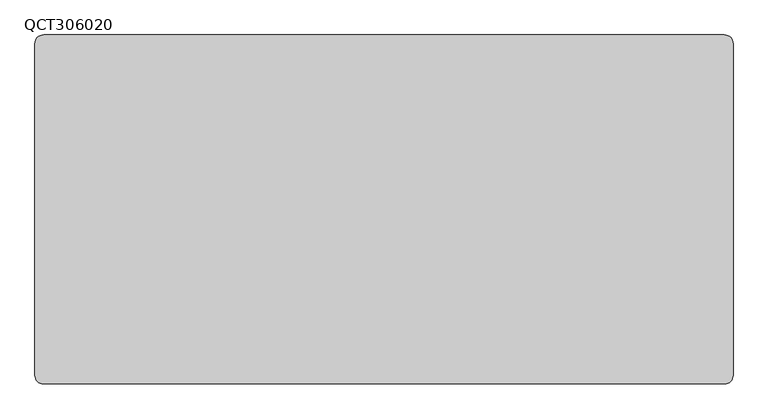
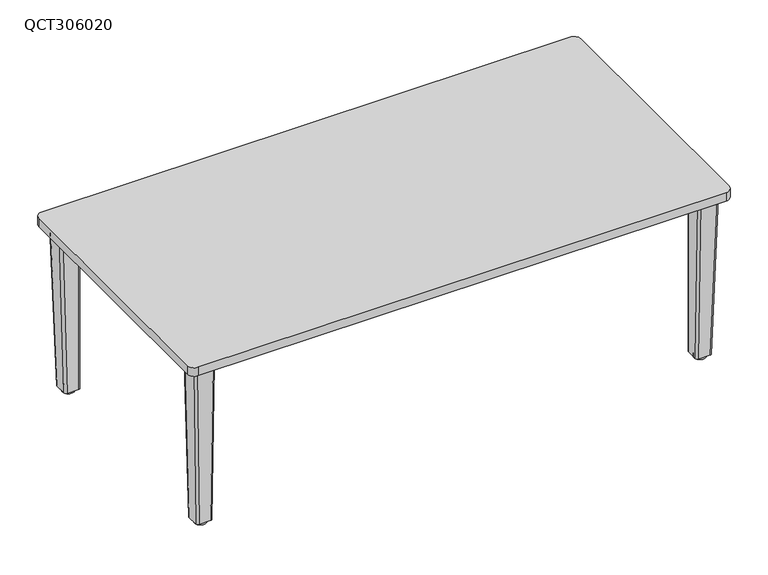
"""IFC4 building model written with IfcOpenShell, lengths in millimetres: furniture geometry, Leland-Quince-Table_Rectangle : QCT306020."""

from ifc_helpers import new_model, si_unit, point, frame, frame_2d, origin, origin_with_axes, place, context, project, spatial, polyline, circle_curve, trimmed, segment, composite_curve, outline, extrude, source, transform, mapped, element, save
from ifc_brep_helpers import plane_surface, cylinder_surface, extruded_surface, advanced_brep


def qct306020_a0ced367(model_context):
    return source(origin(), model_context, "Body", "SolidModel", [
        advanced_brep(
        [(731.0299122, -299.2482078, 477.8487443), (686.5799122, -299.2482078, 477.8487443), (680.2299122, -305.5982078, 477.8487443), (680.2299122, -350.0482078, 477.8487443), (686.5799122, -356.3982078, 477.8487443), (731.0299122, -356.3982078, 477.8487443), (737.3799122, -350.0482078, 477.8487443), (737.3799122, -305.5982078, 477.8487443), (718.7392552, -299.2482078, 9.5377), (725.0892552, -305.5982078, 9.5377), (725.0892552, -337.7651364, 9.5377), (718.7392552, -344.1151364, 9.5377), (686.5799122, -344.1151364, 9.5377), (680.2299122, -337.7651364, 9.5377), (680.2299122, -305.5982078, 9.5377), (686.5799122, -299.2482078, 9.5377)],
        [
            (0, 1),
            (1, 2, circle_curve(frame((686.5799122, -305.5982078, 477.8487443), z_axis=(0.0, 0.0, 1.0), x_axis=(-1.0, 0.0, 0.0)), 6.35)),
            (2, 3),
            (3, 4, circle_curve(frame((686.5799122, -350.0482078, 477.8487443), z_axis=(0.0, 0.0, 1.0), x_axis=(-1.0, 0.0, 0.0)), 6.35)),
            (4, 5),
            (5, 6, circle_curve(frame((731.0299122, -350.0482078, 477.8487443), z_axis=(0.0, 0.0, 1.0), x_axis=(-1.0, 0.0, 0.0)), 6.35)),
            (6, 7),
            (7, 0, circle_curve(frame((731.0299122, -305.5982078, 477.8487443), z_axis=(0.0, 0.0, 1.0), x_axis=(-1.0, 0.0, 0.0)), 6.35)),
            (8, 9, circle_curve(frame((718.7392552, -305.5982078, 9.5377), z_axis=(0.0, 0.0, -1.0), x_axis=(-1.0, 0.0, 0.0)), 6.35)),
            (9, 10),
            (10, 11, circle_curve(frame((718.7392552, -337.7651364, 9.5377), z_axis=(0.0, 0.0, -1.0), x_axis=(-1.0, 0.0, 0.0)), 6.35)),
            (11, 12),
            (12, 13, circle_curve(frame((686.5799122, -337.7651364, 9.5377), z_axis=(0.0, 0.0, -1.0), x_axis=(-1.0, 0.0, 0.0)), 6.35)),
            (13, 14),
            (14, 15, circle_curve(frame((686.5799122, -305.5982078, 9.5377), z_axis=(0.0, 0.0, -1.0), x_axis=(-1.0, 0.0, 0.0)), 6.35)),
            (15, 8),
            (8, 0),
            (7, 9),
            (6, 10),
            (5, 11),
            (4, 12),
            (3, 13),
            (2, 14),
            (1, 15),
        ],
        [
            plane_surface(frame((708.8049122, -327.8232078, 477.8487443), z_axis=(0.0, 0.0, 1.0), x_axis=(1.0, 0.0, 0.0))),
            plane_surface(frame((702.6595837, -321.6816721, 9.5377), z_axis=(0.0, 0.0, -1.0), x_axis=(1.0, 0.0, 0.0))),
            extruded_surface(trimmed(circle_curve(frame((718.7392552, -305.5982078, 9.5377), z_axis=(0.0, 0.0, 1.0), x_axis=(-1.0, 0.0, 0.0)), 6.35), [point((725.0892552, -305.5982078, 9.5377))], [point((718.7392552, -299.2482078, 9.5377))], True, "CARTESIAN"), (12.29065700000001, 0.0, 468.31104430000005), 468.47229850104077),
            plane_surface(frame((725.0892552, -321.6816721, 9.5377), z_axis=(0.9996557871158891, 0.0, -0.026235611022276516), x_axis=(0.0, 1.0, 0.0))),
            extruded_surface(trimmed(circle_curve(frame((718.7392552, -337.7651364, 9.5377), z_axis=(0.0, 0.0, 1.0), x_axis=(-1.0, 0.0, 0.0)), 6.35), [point((718.7392552, -344.1151364, 9.5377))], [point((725.0892552, -337.7651364, 9.5377))], True, "CARTESIAN"), (12.29065700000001, -12.283071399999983, 468.31104430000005), 468.63329833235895),
            plane_surface(frame((702.6595837, -344.1151364, 9.5377), z_axis=(0.0, -0.9996562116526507, -0.026219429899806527), x_axis=(1.0, 0.0, 0.0))),
            extruded_surface(trimmed(circle_curve(frame((686.5799122, -337.7651364, 9.5377), z_axis=(0.0, 0.0, 1.0), x_axis=(-1.0, 0.0, 0.0)), 6.35), [point((680.2299122, -337.7651364, 9.5377))], [point((686.5799122, -344.1151364, 9.5377))], True, "CARTESIAN"), (0.0, -12.283071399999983, 468.31104430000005), 468.47209954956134),
            plane_surface(frame((680.2299122, -321.6816721, 9.5377), z_axis=(-1.0, 0.0, 0.0), x_axis=(0.0, -1.0, 0.0))),
            cylinder_surface(frame((686.5799122, -305.5982078, 9.5377), z_axis=(0.0, 0.0, 1.0), x_axis=(-1.0, 0.0, 0.0)), 6.35),
            plane_surface(frame((702.6595837, -299.2482078, 9.5377), z_axis=(0.0, 1.0, 0.0), x_axis=(-1.0, 0.0, 0.0))),
        ],
        [
            (0, [[1, 2, 3, 4, 5, 6, 7, 8]]),
            (1, [[9, 10, 11, 12, 13, 14, 15, 16]]),
            (2, [[-9, 17, -8, 18]]),
            (3, [[-10, -18, -7, 19]]),
            (4, [[-11, -19, -6, 20]]),
            (5, [[-12, -20, -5, 21]]),
            (6, [[-13, -21, -4, 22]]),
            (7, [[-14, -22, -3, 23]]),
            (8, [[-15, -23, -2, 24]]),
            (9, [[-16, -24, -1, -17]]),
        ],
    ),
        advanced_brep(
        [(-731.0299122, -299.2482078, 477.8487443), (-737.3799122, -305.5982078, 477.8487443), (-737.3799122, -350.0482078, 477.8487443), (-731.0299122, -356.3982078, 477.8487443), (-686.5799122, -356.3982078, 477.8487443), (-680.2299122, -350.0482078, 477.8487443), (-680.2299122, -305.5982078, 477.8487443), (-686.5799122, -299.2482078, 477.8487443), (-718.7392552, -299.2482078, 9.5377), (-686.5799122, -299.2482078, 9.5377), (-680.2299122, -305.5982078, 9.5377), (-680.2299122, -337.7651364, 9.5377), (-686.5799122, -344.1151364, 9.5377), (-718.7392552, -344.1151364, 9.5377), (-725.0892552, -337.7651364, 9.5377), (-725.0892552, -305.5982078, 9.5377)],
        [
            (0, 1, circle_curve(frame((-731.0299122, -305.5982078, 477.8487443), z_axis=(0.0, 0.0, 1.0), x_axis=(1.0, 0.0, 0.0)), 6.35)),
            (1, 2),
            (2, 3, circle_curve(frame((-731.0299122, -350.0482078, 477.8487443), z_axis=(0.0, 0.0, 1.0), x_axis=(1.0, 0.0, 0.0)), 6.35)),
            (3, 4),
            (4, 5, circle_curve(frame((-686.5799122, -350.0482078, 477.8487443), z_axis=(0.0, 0.0, 1.0), x_axis=(1.0, 0.0, 0.0)), 6.35)),
            (5, 6),
            (6, 7, circle_curve(frame((-686.5799122, -305.5982078, 477.8487443), z_axis=(0.0, 0.0, 1.0), x_axis=(0.0, 1.0, 0.0)), 6.35)),
            (7, 0),
            (8, 9),
            (9, 10, circle_curve(frame((-686.5799122, -305.5982078, 9.5377), z_axis=(0.0, 0.0, -1.0), x_axis=(0.0, 1.0, 0.0)), 6.35)),
            (10, 11),
            (11, 12, circle_curve(frame((-686.5799122, -337.7651364, 9.5377), z_axis=(0.0, 0.0, -1.0), x_axis=(1.0, 0.0, 0.0)), 6.35)),
            (12, 13),
            (13, 14, circle_curve(frame((-718.7392552, -337.7651364, 9.5377), z_axis=(0.0, 0.0, -1.0), x_axis=(1.0, 0.0, 0.0)), 6.35)),
            (14, 15),
            (15, 8, circle_curve(frame((-718.7392552, -305.5982078, 9.5377), z_axis=(0.0, 0.0, -1.0), x_axis=(1.0, 0.0, 0.0)), 6.35)),
            (15, 1),
            (0, 8),
            (14, 2),
            (13, 3),
            (12, 4),
            (11, 5),
            (10, 6),
            (9, 7),
        ],
        [
            plane_surface(frame((-708.8049122, -327.8232078, 477.8487443), z_axis=(0.0, 0.0, 1.0), x_axis=(1.0, 0.0, 0.0))),
            plane_surface(frame((-702.6595837, -321.6816721, 9.5377), z_axis=(0.0, 0.0, -1.0), x_axis=(1.0, 0.0, 0.0))),
            extruded_surface(trimmed(circle_curve(frame((-718.7392552, -305.5982078, 9.5377), z_axis=(0.0, 0.0, 1.0), x_axis=(1.0, 0.0, 0.0)), 6.35), [point((-718.7392552, -299.2482078, 9.5377))], [point((-725.0892552, -305.5982078, 9.5377))], True, "CARTESIAN"), (-12.29065700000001, 0.0, 468.31104430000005), 468.47229850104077),
            plane_surface(frame((-725.0892552, -321.6816721, 9.5377), z_axis=(-0.9996557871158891, 0.0, -0.02623561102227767), x_axis=(0.0, -1.0, 0.0))),
            extruded_surface(trimmed(circle_curve(frame((-718.7392552, -337.7651364, 9.5377), z_axis=(0.0, 0.0, 1.0), x_axis=(1.0, 0.0, 0.0)), 6.35), [point((-725.0892552, -337.7651364, 9.5377))], [point((-718.7392552, -344.1151364, 9.5377))], True, "CARTESIAN"), (-12.29065700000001, -12.283071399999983, 468.31104430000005), 468.63329833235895),
            plane_surface(frame((-702.6595837, -344.1151364, 9.5377), z_axis=(0.0, -0.9996562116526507, -0.026219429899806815), x_axis=(1.0, 0.0, 0.0))),
            extruded_surface(trimmed(circle_curve(frame((-686.5799122, -337.7651364, 9.5377), z_axis=(0.0, 0.0, 1.0), x_axis=(1.0, 0.0, 0.0)), 6.35), [point((-686.5799122, -344.1151364, 9.5377))], [point((-680.2299122, -337.7651364, 9.5377))], True, "CARTESIAN"), (0.0, -12.283071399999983, 468.31104430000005), 468.47209954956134),
            plane_surface(frame((-680.2299122, -321.6816721, 9.5377), z_axis=(1.0, 0.0, 0.0), x_axis=(0.0, 1.0, 0.0))),
            cylinder_surface(frame((-686.5799122, -305.5982078, 9.5377), z_axis=(0.0, 0.0, 1.0), x_axis=(0.0, 1.0, 0.0)), 6.35),
            plane_surface(frame((-702.6595837, -299.2482078, 9.5377), z_axis=(0.0, 1.0, 0.0), x_axis=(-1.0, 0.0, 0.0))),
        ],
        [
            (0, [[1, 2, 3, 4, 5, 6, 7, 8]]),
            (1, [[9, 10, 11, 12, 13, 14, 15, 16]]),
            (2, [[-16, 17, -1, 18]]),
            (3, [[-15, 19, -2, -17]]),
            (4, [[-14, 20, -3, -19]]),
            (5, [[-13, 21, -4, -20]]),
            (6, [[-12, 22, -5, -21]]),
            (7, [[-11, 23, -6, -22]]),
            (8, [[-10, 24, -7, -23]]),
            (9, [[-9, -18, -8, -24]]),
        ],
    ),
        advanced_brep(
        [(731.0299122, 299.2482078, 477.8487443), (737.3799122, 305.5982078, 477.8487443), (737.3799122, 350.0482078, 477.8487443), (731.0299122, 356.3982078, 477.8487443), (686.5799122, 356.3982078, 477.8487443), (680.2299122, 350.0482078, 477.8487443), (680.2299122, 305.5982078, 477.8487443), (686.5799122, 299.2482078, 477.8487443), (718.7392552, 299.2482078, 9.5377), (686.5799122, 299.2482078, 9.5377), (680.2299122, 305.5982078, 9.5377), (680.2299122, 337.7651364, 9.5377), (686.5799122, 344.1151364, 9.5377), (718.7392552, 344.1151364, 9.5377), (725.0892552, 337.7651364, 9.5377), (725.0892552, 305.5982078, 9.5377)],
        [
            (0, 1, circle_curve(frame((731.0299122, 305.5982078, 477.8487443), z_axis=(0.0, 0.0, 1.0), x_axis=(-1.0, 0.0, 0.0)), 6.35)),
            (1, 2),
            (2, 3, circle_curve(frame((731.0299122, 350.0482078, 477.8487443), z_axis=(0.0, 0.0, 1.0), x_axis=(-1.0, 0.0, 0.0)), 6.35)),
            (3, 4),
            (4, 5, circle_curve(frame((686.5799122, 350.0482078, 477.8487443), z_axis=(0.0, 0.0, 1.0), x_axis=(-1.0, 0.0, 0.0)), 6.35)),
            (5, 6),
            (6, 7, circle_curve(frame((686.5799122, 305.5982078, 477.8487443), z_axis=(0.0, 0.0, 1.0), x_axis=(0.0, -1.0, 0.0)), 6.35)),
            (7, 0),
            (8, 9),
            (9, 10, circle_curve(frame((686.5799122, 305.5982078, 9.5377), z_axis=(0.0, 0.0, -1.0), x_axis=(0.0, -1.0, 0.0)), 6.35)),
            (10, 11),
            (11, 12, circle_curve(frame((686.5799122, 337.7651364, 9.5377), z_axis=(0.0, 0.0, -1.0), x_axis=(-1.0, 0.0, 0.0)), 6.35)),
            (12, 13),
            (13, 14, circle_curve(frame((718.7392552, 337.7651364, 9.5377), z_axis=(0.0, 0.0, -1.0), x_axis=(-1.0, 0.0, 0.0)), 6.35)),
            (14, 15),
            (15, 8, circle_curve(frame((718.7392552, 305.5982078, 9.5377), z_axis=(0.0, 0.0, -1.0), x_axis=(-1.0, 0.0, 0.0)), 6.35)),
            (15, 1),
            (0, 8),
            (14, 2),
            (13, 3),
            (12, 4),
            (11, 5),
            (10, 6),
            (9, 7),
        ],
        [
            plane_surface(frame((708.8049122, 327.8232078, 477.8487443), z_axis=(0.0, 0.0, 1.0), x_axis=(-1.0, 0.0, 0.0))),
            plane_surface(frame((702.6595837, 321.6816721, 9.5377), z_axis=(0.0, 0.0, -1.0), x_axis=(-1.0, 0.0, 0.0))),
            extruded_surface(trimmed(circle_curve(frame((718.7392552, 305.5982078, 9.5377), z_axis=(0.0, 0.0, 1.0), x_axis=(-1.0, 0.0, 0.0)), 6.35), [point((718.7392552, 299.2482078, 9.5377))], [point((725.0892552, 305.5982078, 9.5377))], True, "CARTESIAN"), (12.29065700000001, 0.0, 468.31104430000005), 468.47229850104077),
            plane_surface(frame((725.0892552, 321.6816721, 9.5377), z_axis=(0.9996557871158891, 0.0, -0.026235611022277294), x_axis=(0.0, 1.0, 0.0))),
            extruded_surface(trimmed(circle_curve(frame((718.7392552, 337.7651364, 9.5377), z_axis=(0.0, 0.0, 1.0), x_axis=(-1.0, 0.0, 0.0)), 6.35), [point((725.0892552, 337.7651364, 9.5377))], [point((718.7392552, 344.1151364, 9.5377))], True, "CARTESIAN"), (12.29065700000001, 12.283071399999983, 468.31104430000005), 468.63329833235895),
            plane_surface(frame((702.6595837, 344.1151364, 9.5377), z_axis=(0.0, 0.9996562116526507, -0.026219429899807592), x_axis=(-1.0, 0.0, 0.0))),
            extruded_surface(trimmed(circle_curve(frame((686.5799122, 337.7651364, 9.5377), z_axis=(0.0, 0.0, 1.0), x_axis=(-1.0, 0.0, 0.0)), 6.35), [point((686.5799122, 344.1151364, 9.5377))], [point((680.2299122, 337.7651364, 9.5377))], True, "CARTESIAN"), (0.0, 12.283071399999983, 468.31104430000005), 468.47209954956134),
            plane_surface(frame((680.2299122, 321.6816721, 9.5377), z_axis=(-1.0, 0.0, 0.0), x_axis=(0.0, -1.0, 0.0))),
            cylinder_surface(frame((686.5799122, 305.5982078, 9.5377), z_axis=(0.0, 0.0, 1.0), x_axis=(0.0, -1.0, 0.0)), 6.35),
            plane_surface(frame((702.6595837, 299.2482078, 9.5377), z_axis=(0.0, -1.0, 0.0), x_axis=(1.0, 0.0, 0.0))),
        ],
        [
            (0, [[1, 2, 3, 4, 5, 6, 7, 8]]),
            (1, [[9, 10, 11, 12, 13, 14, 15, 16]]),
            (2, [[-16, 17, -1, 18]]),
            (3, [[-15, 19, -2, -17]]),
            (4, [[-14, 20, -3, -19]]),
            (5, [[-13, 21, -4, -20]]),
            (6, [[-12, 22, -5, -21]]),
            (7, [[-11, 23, -6, -22]]),
            (8, [[-10, 24, -7, -23]]),
            (9, [[-9, -18, -8, -24]]),
        ],
    ),
        extrude(outline(composite_curve([segment(trimmed(circle_curve(frame_2d((-702.6595837, 321.6816721)), 16.66875), [point((-719.3283337, 321.6816721))], [point((-685.9908337, 321.6816721))], False, "CARTESIAN"), True, "CONTINUOUS"), segment(trimmed(circle_curve(frame_2d((-702.6595837, 321.6816721)), 16.66875), [point((-685.9908337, 321.6816721))], [point((-719.3283337, 321.6816721))], False, "CARTESIAN"), True, "CONTINUOUS")], self_intersect=False)), origin_with_axes(), (0.0, 0.0, 1.0), 9.5377),
        extrude(outline(composite_curve([segment(trimmed(circle_curve(frame_2d((702.6595837, 321.6816721)), 16.66875), [point((685.9908337, 321.6816721))], [point((719.3283337, 321.6816721))], False, "CARTESIAN"), True, "CONTINUOUS"), segment(trimmed(circle_curve(frame_2d((702.6595837, 321.6816721)), 16.66875), [point((719.3283337, 321.6816721))], [point((685.9908337, 321.6816721))], False, "CARTESIAN"), True, "CONTINUOUS")], self_intersect=False)), origin_with_axes(), (0.0, 0.0, 1.0), 9.5377),
        extrude(outline(composite_curve([segment(trimmed(circle_curve(frame_2d((-702.6595837, -321.6816721)), 16.66875), [point((-719.3283337, -321.6816721))], [point((-685.9908337, -321.6816721))], False, "CARTESIAN"), True, "CONTINUOUS"), segment(trimmed(circle_curve(frame_2d((-702.6595837, -321.6816721)), 16.66875), [point((-685.9908337, -321.6816721))], [point((-719.3283337, -321.6816721))], False, "CARTESIAN"), True, "CONTINUOUS")], self_intersect=False)), origin_with_axes(), (0.0, 0.0, 1.0), 9.5377),
        extrude(outline(composite_curve([segment(trimmed(circle_curve(frame_2d((702.6595837, -321.6816721)), 16.66875), [point((685.9908337, -321.6816721))], [point((719.3283337, -321.6816721))], False, "CARTESIAN"), True, "CONTINUOUS"), segment(trimmed(circle_curve(frame_2d((702.6595837, -321.6816721)), 16.66875), [point((719.3283337, -321.6816721))], [point((685.9908337, -321.6816721))], False, "CARTESIAN"), True, "CONTINUOUS")], self_intersect=False)), origin_with_axes(), (0.0, 0.0, 1.0), 9.5377),
        extrude(outline(polyline([(-632.61875, 353.21875), (-632.61875, 251.61875), (-734.21875, 251.61875), (-734.21875, 353.21875), (-632.61875, 353.21875)])), frame((0.0, 0.0, 477.8487443), z_axis=(0.0, 0.0, 1.0), x_axis=(1.0, 0.0, 0.0)), (0.0, 0.0, 1.0), 4.7625),
        extrude(outline(polyline([(632.61875, 353.21875), (734.21875, 353.21875), (734.21875, 251.61875), (632.61875, 251.61875), (632.61875, 353.21875)])), frame((0.0, 0.0, 477.8487443), z_axis=(0.0, 0.0, 1.0), x_axis=(1.0, 0.0, 0.0)), (0.0, 0.0, 1.0), 4.7625),
        extrude(outline(polyline([(-632.61875, -353.21875), (-734.21875, -353.21875), (-734.21875, -251.61875), (-632.61875, -251.61875), (-632.61875, -353.21875)])), frame((0.0, 0.0, 477.8487443), z_axis=(0.0, 0.0, 1.0), x_axis=(1.0, 0.0, 0.0)), (0.0, 0.0, 1.0), 4.7625),
        extrude(outline(polyline([(632.61875, -353.21875), (632.61875, -251.61875), (734.21875, -251.61875), (734.21875, -353.21875), (632.61875, -353.21875)])), frame((0.0, 0.0, 477.8487443), z_axis=(0.0, 0.0, 1.0), x_axis=(1.0, 0.0, 0.0)), (0.0, 0.0, 1.0), 4.7625),
        advanced_brep(
        [(-731.0299122, 299.2482078, 477.8487443), (-686.5799122, 299.2482078, 477.8487443), (-680.2299122, 305.5982078, 477.8487443), (-680.2299122, 350.0482078, 477.8487443), (-686.5799122, 356.3982078, 477.8487443), (-731.0299122, 356.3982078, 477.8487443), (-737.3799122, 350.0482078, 477.8487443), (-737.3799122, 305.5982078, 477.8487443), (-718.7392552, 299.2482078, 9.5377), (-725.0892552, 305.5982078, 9.5377), (-725.0892552, 337.7651364, 9.5377), (-718.7392552, 344.1151364, 9.5377), (-686.5799122, 344.1151364, 9.5377), (-680.2299122, 337.7651364, 9.5377), (-680.2299122, 305.5982078, 9.5377), (-686.5799122, 299.2482078, 9.5377)],
        [
            (0, 1),
            (1, 2, circle_curve(frame((-686.5799122, 305.5982078, 477.8487443), z_axis=(0.0, 0.0, 1.0), x_axis=(1.0, 0.0, 0.0)), 6.35)),
            (2, 3),
            (3, 4, circle_curve(frame((-686.5799122, 350.0482078, 477.8487443), z_axis=(0.0, 0.0, 1.0), x_axis=(1.0, 0.0, 0.0)), 6.35)),
            (4, 5),
            (5, 6, circle_curve(frame((-731.0299122, 350.0482078, 477.8487443), z_axis=(0.0, 0.0, 1.0), x_axis=(1.0, 0.0, 0.0)), 6.35)),
            (6, 7),
            (7, 0, circle_curve(frame((-731.0299122, 305.5982078, 477.8487443), z_axis=(0.0, 0.0, 1.0), x_axis=(1.0, 0.0, 0.0)), 6.35)),
            (8, 9, circle_curve(frame((-718.7392552, 305.5982078, 9.5377), z_axis=(0.0, 0.0, -1.0), x_axis=(1.0, 0.0, 0.0)), 6.35)),
            (9, 10),
            (10, 11, circle_curve(frame((-718.7392552, 337.7651364, 9.5377), z_axis=(0.0, 0.0, -1.0), x_axis=(1.0, 0.0, 0.0)), 6.35)),
            (11, 12),
            (12, 13, circle_curve(frame((-686.5799122, 337.7651364, 9.5377), z_axis=(0.0, 0.0, -1.0), x_axis=(1.0, 0.0, 0.0)), 6.35)),
            (13, 14),
            (14, 15, circle_curve(frame((-686.5799122, 305.5982078, 9.5377), z_axis=(0.0, 0.0, -1.0), x_axis=(1.0, 0.0, 0.0)), 6.35)),
            (15, 8),
            (8, 0),
            (7, 9),
            (6, 10),
            (5, 11),
            (4, 12),
            (3, 13),
            (2, 14),
            (1, 15),
        ],
        [
            plane_surface(frame((-708.8049122, 327.8232078, 477.8487443), z_axis=(0.0, 0.0, 1.0), x_axis=(-1.0, 0.0, 0.0))),
            plane_surface(frame((-702.6595837, 321.6816721, 9.5377), z_axis=(0.0, 0.0, -1.0), x_axis=(-1.0, 0.0, 0.0))),
            extruded_surface(trimmed(circle_curve(frame((-718.7392552, 305.5982078, 9.5377), z_axis=(0.0, 0.0, 1.0), x_axis=(1.0, 0.0, 0.0)), 6.35), [point((-725.0892552, 305.5982078, 9.5377))], [point((-718.7392552, 299.2482078, 9.5377))], True, "CARTESIAN"), (-12.29065700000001, 0.0, 468.31104430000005), 468.47229850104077),
            plane_surface(frame((-725.0892552, 321.6816721, 9.5377), z_axis=(-0.9996557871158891, 0.0, -0.026235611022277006), x_axis=(0.0, -1.0, 0.0))),
            extruded_surface(trimmed(circle_curve(frame((-718.7392552, 337.7651364, 9.5377), z_axis=(0.0, 0.0, 1.0), x_axis=(1.0, 0.0, 0.0)), 6.35), [point((-718.7392552, 344.1151364, 9.5377))], [point((-725.0892552, 337.7651364, 9.5377))], True, "CARTESIAN"), (-12.29065700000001, 12.283071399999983, 468.31104430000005), 468.63329833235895),
            plane_surface(frame((-702.6595837, 344.1151364, 9.5377), z_axis=(0.0, 0.9996562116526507, -0.02621942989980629), x_axis=(-1.0, 0.0, 0.0))),
            extruded_surface(trimmed(circle_curve(frame((-686.5799122, 337.7651364, 9.5377), z_axis=(0.0, 0.0, 1.0), x_axis=(1.0, 0.0, 0.0)), 6.35), [point((-680.2299122, 337.7651364, 9.5377))], [point((-686.5799122, 344.1151364, 9.5377))], True, "CARTESIAN"), (0.0, 12.283071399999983, 468.31104430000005), 468.47209954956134),
            plane_surface(frame((-680.2299122, 321.6816721, 9.5377), z_axis=(1.0, 0.0, 0.0), x_axis=(0.0, 1.0, 0.0))),
            cylinder_surface(frame((-686.5799122, 305.5982078, 9.5377), z_axis=(0.0, 0.0, 1.0), x_axis=(1.0, 0.0, 0.0)), 6.35),
            plane_surface(frame((-702.6595837, 299.2482078, 9.5377), z_axis=(0.0, -1.0, 0.0), x_axis=(1.0, 0.0, 0.0))),
        ],
        [
            (0, [[1, 2, 3, 4, 5, 6, 7, 8]]),
            (1, [[9, 10, 11, 12, 13, 14, 15, 16]]),
            (2, [[-9, 17, -8, 18]]),
            (3, [[-10, -18, -7, 19]]),
            (4, [[-11, -19, -6, 20]]),
            (5, [[-12, -20, -5, 21]]),
            (6, [[-13, -21, -4, 22]]),
            (7, [[-14, -22, -3, 23]]),
            (8, [[-15, -23, -2, 24]]),
            (9, [[-16, -24, -1, -17]]),
        ],
    ),
        extrude(outline(composite_curve([segment(trimmed(circle_curve(frame_2d((742.95, 361.95)), 19.05), [point((742.95, 381.0))], [point((762.0, 361.95))], False, "CARTESIAN"), True, "CONTINUOUS"), segment(polyline([(762.0, 361.95), (762.0, -361.95)]), True, "CONTINUOUS"), segment(trimmed(circle_curve(frame_2d((742.95, -361.95)), 19.05), [point((762.0, -361.95))], [point((742.95, -381.0))], False, "CARTESIAN"), True, "CONTINUOUS"), segment(polyline([(742.95, -381.0), (-742.95, -381.0)]), True, "CONTINUOUS"), segment(trimmed(circle_curve(frame_2d((-742.95, -361.95)), 19.05), [point((-742.95, -381.0))], [point((-762.0, -361.95))], False, "CARTESIAN"), True, "CONTINUOUS"), segment(polyline([(-762.0, -361.95), (-762.0, 361.95)]), True, "CONTINUOUS"), segment(trimmed(circle_curve(frame_2d((-742.95, 361.95)), 19.05), [point((-762.0, 361.95))], [point((-742.95, 381.0))], False, "CARTESIAN"), True, "CONTINUOUS"), segment(polyline([(-742.95, 381.0), (742.95, 381.0)]), True, "CONTINUOUS")], self_intersect=False)), frame((0.0, 0.0, 482.6112443), z_axis=(0.0, 0.0, 1.0), x_axis=(1.0, 0.0, 0.0)), (0.0, 0.0, 1.0), 25.3887557),
    ])


if __name__ == "__main__":
    model = new_model("IFC4")
    model_context = context("Model", 3, world=origin())
    ifc_project = project(units=[si_unit("LENGTHUNIT", "METRE", prefix="MILLI")], contexts=[model_context])
    site = spatial("IfcSite", under=ifc_project)
    building = spatial("IfcBuilding", under=site)
    placement = place(None, origin())
    qct306020_shape = qct306020_a0ced367(model_context)
    element("IfcFurniture", 1, ObjectType="Leland-Quince-Table_Rectangle : QCT306020", at=placement, inside=building, context=model_context, shape_type="MappedRepresentation", body=[
        mapped(qct306020_shape, transform((0.0, 0.0, 0.0), x_axis=(1.0, 0.0, 0.0), y_axis=(0.0, 1.0, 0.0), z_axis=(0.0, 0.0, 1.0))),
    ])
    save(model, "model.ifc")
